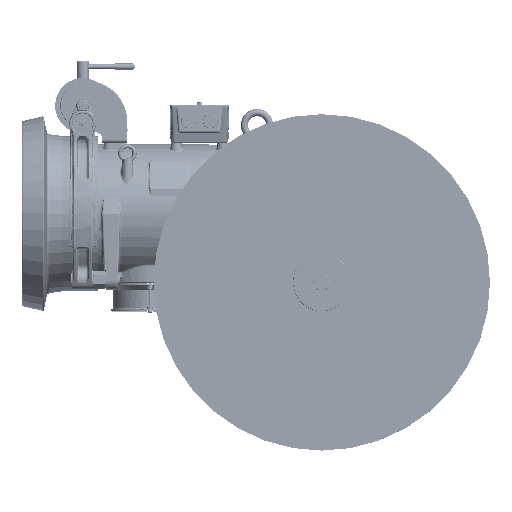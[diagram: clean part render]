
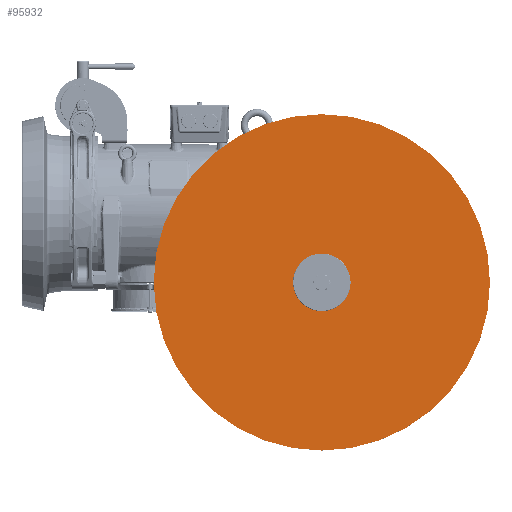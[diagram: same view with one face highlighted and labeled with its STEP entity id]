
A CAD part, top view. The second image highlights one B-rep face of the part: STEP entity #95932.
In plain terms, the highlighted planar face has unit normal (0, 0, 1).
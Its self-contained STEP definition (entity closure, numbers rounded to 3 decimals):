
#95614=CARTESIAN_POINT('',(0.,0.,227.));
#95615=DIRECTION('',(0.,0.,1.));
#95616=DIRECTION('',(-1.,0.,0.));
#95617=AXIS2_PLACEMENT_3D('',#95614,#95615,#95616);
#95628=CARTESIAN_POINT('',(0.,0.,227.));
#95629=DIRECTION('',(0.,0.,1.));
#95630=DIRECTION('',(1.,0.,0.));
#95631=AXIS2_PLACEMENT_3D('',#95628,#95629,#95630);
#95694=CARTESIAN_POINT('',(-327.,0.,227.));
#95695=CARTESIAN_POINT('',(327.,0.,227.));
#95696=VERTEX_POINT('',#95694);
#95697=VERTEX_POINT('',#95695);
#95923=CARTESIAN_POINT('',(0.,0.,227.));
#95924=DIRECTION('',(0.,0.,1.));
#95925=DIRECTION('',(0.,-1.,0.));
#95926=AXIS2_PLACEMENT_3D('',#95923,#95924,#95925);
#95927=PLANE('',#95926);
#95928=ORIENTED_EDGE('',*,*,#95888,.F.);
#95929=ORIENTED_EDGE('',*,*,#95904,.F.);
#95930=EDGE_LOOP('',(#95928,#95929));
#95931=FACE_OUTER_BOUND('',#95930,.F.);
#95932=ADVANCED_FACE('',(#95931),#95927,.T.);
#95618=CIRCLE('',#95617,327.);
#95632=CIRCLE('',#95631,327.);
#95888=EDGE_CURVE('',#95696,#95697,#95618,.T.);
#95904=EDGE_CURVE('',#95697,#95696,#95632,.T.);
